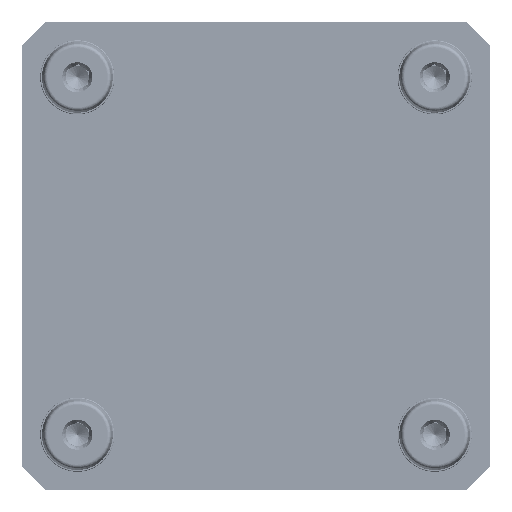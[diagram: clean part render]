
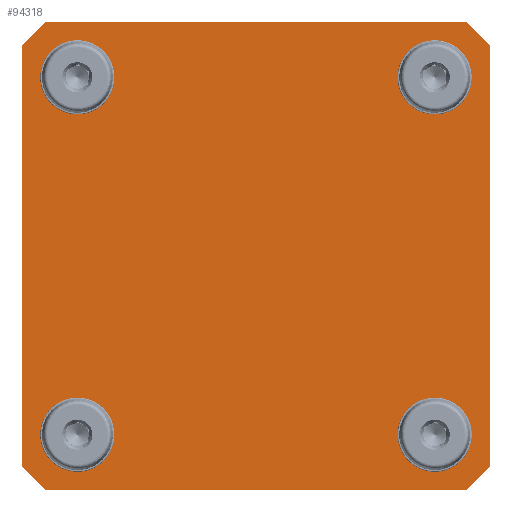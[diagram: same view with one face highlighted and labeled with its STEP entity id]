
A CAD part, front view. The second image highlights one B-rep face of the part: STEP entity #94318.
In plain terms, the highlighted planar face has unit normal (0, -1, 0).
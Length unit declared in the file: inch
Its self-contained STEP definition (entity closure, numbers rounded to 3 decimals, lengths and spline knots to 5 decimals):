
#197 = VERTEX_POINT ( 'NONE', #77002 ) ;
#792 = CARTESIAN_POINT ( 'NONE',  ( -1.88976, 0., -1.88976 ) ) ;
#1490 = VECTOR ( 'NONE', #41982, 39.37008 ) ;
#1522 = CARTESIAN_POINT ( 'NONE',  ( -2.475, 0., -2.475 ) ) ;
#1732 = VERTEX_POINT ( 'NONE', #14410 ) ;
#2294 = LINE ( 'NONE', #74886, #107219 ) ;
#4858 = PLANE ( 'NONE',  #84651 ) ;
#5739 = ORIENTED_EDGE ( 'NONE', *, *, #54458, .F. ) ;
#6816 = AXIS2_PLACEMENT_3D ( 'NONE', #67554, #114721, #59394 ) ;
#9804 = CARTESIAN_POINT ( 'NONE',  ( -2.475, 0., -2.225 ) ) ;
#10152 = CARTESIAN_POINT ( 'NONE',  ( -2.225, 0., -2.475 ) ) ;
#11030 = DIRECTION ( 'NONE',  ( 0., -1., 0. ) ) ;
#11616 = EDGE_CURVE ( 'NONE', #19131, #30035, #73313, .T. ) ;
#12098 = AXIS2_PLACEMENT_3D ( 'NONE', #47798, #20496, #103181 ) ;
#14030 = CIRCLE ( 'NONE', #36084, 0.31535 ) ;
#14053 = LINE ( 'NONE', #30131, #100034 ) ;
#14175 = DIRECTION ( 'NONE',  ( 0., -1., 0. ) ) ;
#14410 = CARTESIAN_POINT ( 'NONE',  ( -2.225, 0., 2.475 ) ) ;
#15629 = CIRCLE ( 'NONE', #12098, 0.31535 ) ;
#15800 = AXIS2_PLACEMENT_3D ( 'NONE', #51597, #14175, #69957 ) ;
#15886 = VECTOR ( 'NONE', #107015, 39.37008 ) ;
#17405 = VERTEX_POINT ( 'NONE', #43816 ) ;
#18223 = VERTEX_POINT ( 'NONE', #51150 ) ;
#19131 = VERTEX_POINT ( 'NONE', #116363 ) ;
#20496 = DIRECTION ( 'NONE',  ( 0., -1., 0. ) ) ;
#21154 = EDGE_LOOP ( 'NONE', ( #67094, #47906, #95284, #73523, #100279, #82107, #110086, #45532 ) ) ;
#21554 = DIRECTION ( 'NONE',  ( 0., 0., -1. ) ) ;
#22540 = LINE ( 'NONE', #111807, #92321 ) ;
#24840 = CARTESIAN_POINT ( 'NONE',  ( 1.88976, 0., 1.57441 ) ) ;
#25767 = DIRECTION ( 'NONE',  ( 0., -1., 0. ) ) ;
#26117 = VERTEX_POINT ( 'NONE', #108942 ) ;
#30035 = VERTEX_POINT ( 'NONE', #10152 ) ;
#30045 = ORIENTED_EDGE ( 'NONE', *, *, #33199, .F. ) ;
#30062 = DIRECTION ( 'NONE',  ( 0.707, 0., -0.707 ) ) ;
#30079 = DIRECTION ( 'NONE',  ( 0., 0., 1. ) ) ;
#30131 = CARTESIAN_POINT ( 'NONE',  ( -2.475, 0., 2.475 ) ) ;
#30136 = EDGE_CURVE ( 'NONE', #19131, #59562, #55982, .T. ) ;
#30412 = DIRECTION ( 'NONE',  ( 0., 0., -1. ) ) ;
#31399 = VERTEX_POINT ( 'NONE', #55734 ) ;
#32375 = CIRCLE ( 'NONE', #15800, 0.31535 ) ;
#33199 = EDGE_CURVE ( 'NONE', #112641, #18223, #53678, .T. ) ;
#35521 = CIRCLE ( 'NONE', #38607, 0.31535 ) ;
#35724 = AXIS2_PLACEMENT_3D ( 'NONE', #63218, #25767, #82357 ) ;
#36084 = AXIS2_PLACEMENT_3D ( 'NONE', #47622, #66345, #76516 ) ;
#36262 = EDGE_CURVE ( 'NONE', #1732, #59562, #22540, .T. ) ;
#36601 = VERTEX_POINT ( 'NONE', #42140 ) ;
#36819 = CARTESIAN_POINT ( 'NONE',  ( -1.88976, 0., -2.20511 ) ) ;
#37851 = AXIS2_PLACEMENT_3D ( 'NONE', #60612, #77749, #21554 ) ;
#38607 = AXIS2_PLACEMENT_3D ( 'NONE', #39402, #67917, #30412 ) ;
#39200 = LINE ( 'NONE', #50815, #15886 ) ;
#39402 = CARTESIAN_POINT ( 'NONE',  ( 1.88976, 0., -1.88976 ) ) ;
#41982 = DIRECTION ( 'NONE',  ( 0.707, 0., 0.707 ) ) ;
#42140 = CARTESIAN_POINT ( 'NONE',  ( 2.475, 0., -2.225 ) ) ;
#42677 = EDGE_CURVE ( 'NONE', #57090, #55868, #59232, .T. ) ;
#43816 = CARTESIAN_POINT ( 'NONE',  ( 1.88976, 0., 2.20511 ) ) ;
#45532 = ORIENTED_EDGE ( 'NONE', *, *, #36262, .T. ) ;
#45915 = FACE_BOUND ( 'NONE', #110035, .T. ) ;
#47622 = CARTESIAN_POINT ( 'NONE',  ( -1.88976, 0., 1.88976 ) ) ;
#47798 = CARTESIAN_POINT ( 'NONE',  ( -1.88976, 0., -1.88976 ) ) ;
#47906 = ORIENTED_EDGE ( 'NONE', *, *, #11616, .T. ) ;
#50464 = DIRECTION ( 'NONE',  ( 0., 0., 1. ) ) ;
#50815 = CARTESIAN_POINT ( 'NONE',  ( -2.475, 0., -2.475 ) ) ;
#51150 = CARTESIAN_POINT ( 'NONE',  ( -1.88976, 0., 1.57441 ) ) ;
#51597 = CARTESIAN_POINT ( 'NONE',  ( 1.88976, 0., 1.88976 ) ) ;
#51933 = CIRCLE ( 'NONE', #74954, 0.31535 ) ;
#53678 = CIRCLE ( 'NONE', #37851, 0.31535 ) ;
#54458 = EDGE_CURVE ( 'NONE', #31399, #94955, #51933, .T. ) ;
#54615 = CARTESIAN_POINT ( 'NONE',  ( -2.475, 0., 2.225 ) ) ;
#54876 = DIRECTION ( 'NONE',  ( -0.707, 0., -0.707 ) ) ;
#55734 = CARTESIAN_POINT ( 'NONE',  ( -1.88976, 0., -1.57441 ) ) ;
#55802 = EDGE_CURVE ( 'NONE', #61116, #17405, #32375, .T. ) ;
#55868 = VERTEX_POINT ( 'NONE', #115088 ) ;
#55982 = LINE ( 'NONE', #1522, #82161 ) ;
#57090 = VERTEX_POINT ( 'NONE', #74114 ) ;
#58060 = ORIENTED_EDGE ( 'NONE', *, *, #93576, .F. ) ;
#59232 = CIRCLE ( 'NONE', #35724, 0.31535 ) ;
#59394 = DIRECTION ( 'NONE',  ( 0., 0., 1. ) ) ;
#59562 = VERTEX_POINT ( 'NONE', #54615 ) ;
#60612 = CARTESIAN_POINT ( 'NONE',  ( -1.88976, 0., 1.88976 ) ) ;
#60792 = ORIENTED_EDGE ( 'NONE', *, *, #55802, .F. ) ;
#61116 = VERTEX_POINT ( 'NONE', #24840 ) ;
#63218 = CARTESIAN_POINT ( 'NONE',  ( 1.88976, 0., -1.88976 ) ) ;
#63378 = CIRCLE ( 'NONE', #6816, 0.31535 ) ;
#64646 = ORIENTED_EDGE ( 'NONE', *, *, #42677, .F. ) ;
#65465 = DIRECTION ( 'NONE',  ( 0., 0., 1. ) ) ;
#65469 = EDGE_CURVE ( 'NONE', #114170, #36601, #100531, .T. ) ;
#66345 = DIRECTION ( 'NONE',  ( 0., -1., 0. ) ) ;
#67094 = ORIENTED_EDGE ( 'NONE', *, *, #30136, .F. ) ;
#67554 = CARTESIAN_POINT ( 'NONE',  ( 1.88976, 0., 1.88976 ) ) ;
#67917 = DIRECTION ( 'NONE',  ( 0., -1., 0. ) ) ;
#68104 = ORIENTED_EDGE ( 'NONE', *, *, #84896, .F. ) ;
#68882 = CARTESIAN_POINT ( 'NONE',  ( 2.225, 0., -2.475 ) ) ;
#69957 = DIRECTION ( 'NONE',  ( 0., 0., 1. ) ) ;
#70521 = EDGE_CURVE ( 'NONE', #114170, #26117, #2294, .T. ) ;
#70618 = EDGE_CURVE ( 'NONE', #17405, #61116, #63378, .T. ) ;
#72442 = EDGE_LOOP ( 'NONE', ( #64646, #68104 ) ) ;
#73313 = LINE ( 'NONE', #9804, #76220 ) ;
#73523 = ORIENTED_EDGE ( 'NONE', *, *, #81941, .T. ) ;
#74114 = CARTESIAN_POINT ( 'NONE',  ( 1.88976, 0., -2.20511 ) ) ;
#74886 = CARTESIAN_POINT ( 'NONE',  ( 2.475, 0., 2.225 ) ) ;
#74954 = AXIS2_PLACEMENT_3D ( 'NONE', #792, #11030, #30079 ) ;
#76220 = VECTOR ( 'NONE', #30062, 39.37008 ) ;
#76516 = DIRECTION ( 'NONE',  ( 0., 0., -1. ) ) ;
#77002 = CARTESIAN_POINT ( 'NONE',  ( 2.225, 0., -2.475 ) ) ;
#77749 = DIRECTION ( 'NONE',  ( 0., -1., 0. ) ) ;
#78176 = CARTESIAN_POINT ( 'NONE',  ( 0., 0., 0. ) ) ;
#81941 = EDGE_CURVE ( 'NONE', #197, #36601, #119354, .T. ) ;
#82107 = ORIENTED_EDGE ( 'NONE', *, *, #70521, .T. ) ;
#82161 = VECTOR ( 'NONE', #65465, 39.37008 ) ;
#82357 = DIRECTION ( 'NONE',  ( 0., 0., -1. ) ) ;
#83719 = EDGE_CURVE ( 'NONE', #1732, #26117, #14053, .T. ) ;
#84651 = AXIS2_PLACEMENT_3D ( 'NONE', #78176, #105863, #50464 ) ;
#84678 = DIRECTION ( 'NONE',  ( -0.707, 0., 0.707 ) ) ;
#84896 = EDGE_CURVE ( 'NONE', #55868, #57090, #35521, .T. ) ;
#85664 = ORIENTED_EDGE ( 'NONE', *, *, #100310, .F. ) ;
#86233 = CARTESIAN_POINT ( 'NONE',  ( -1.88976, 0., 2.20511 ) ) ;
#88128 = FACE_OUTER_BOUND ( 'NONE', #21154, .T. ) ;
#88142 = DIRECTION ( 'NONE',  ( 0., 0., -1. ) ) ;
#91373 = CARTESIAN_POINT ( 'NONE',  ( 2.475, 0., 2.225 ) ) ;
#92321 = VECTOR ( 'NONE', #54876, 39.37008 ) ;
#92574 = FACE_BOUND ( 'NONE', #72442, .T. ) ;
#93291 = VECTOR ( 'NONE', #88142, 39.37008 ) ;
#93576 = EDGE_CURVE ( 'NONE', #94955, #31399, #15629, .T. ) ;
#93992 = FACE_BOUND ( 'NONE', #96894, .T. ) ;
#94318 = ADVANCED_FACE ( 'NONE', ( #45915, #117246, #92574, #93992, #88128 ), #4858, .F. ) ;
#94955 = VERTEX_POINT ( 'NONE', #36819 ) ;
#95284 = ORIENTED_EDGE ( 'NONE', *, *, #99061, .F. ) ;
#96894 = EDGE_LOOP ( 'NONE', ( #85664, #30045 ) ) ;
#97868 = CARTESIAN_POINT ( 'NONE',  ( 2.475, 0., -2.475 ) ) ;
#99061 = EDGE_CURVE ( 'NONE', #197, #30035, #39200, .T. ) ;
#100034 = VECTOR ( 'NONE', #105895, 39.37008 ) ;
#100279 = ORIENTED_EDGE ( 'NONE', *, *, #65469, .F. ) ;
#100310 = EDGE_CURVE ( 'NONE', #18223, #112641, #14030, .T. ) ;
#100531 = LINE ( 'NONE', #97868, #93291 ) ;
#103181 = DIRECTION ( 'NONE',  ( 0., 0., 1. ) ) ;
#104372 = ORIENTED_EDGE ( 'NONE', *, *, #70618, .F. ) ;
#105863 = DIRECTION ( 'NONE',  ( 0., 1., 0. ) ) ;
#105895 = DIRECTION ( 'NONE',  ( 1., 0., 0. ) ) ;
#107015 = DIRECTION ( 'NONE',  ( -1., 0., 0. ) ) ;
#107219 = VECTOR ( 'NONE', #84678, 39.37008 ) ;
#108942 = CARTESIAN_POINT ( 'NONE',  ( 2.225, 0., 2.475 ) ) ;
#110035 = EDGE_LOOP ( 'NONE', ( #60792, #104372 ) ) ;
#110086 = ORIENTED_EDGE ( 'NONE', *, *, #83719, .F. ) ;
#111245 = EDGE_LOOP ( 'NONE', ( #58060, #5739 ) ) ;
#111807 = CARTESIAN_POINT ( 'NONE',  ( -2.225, 0., 2.475 ) ) ;
#112641 = VERTEX_POINT ( 'NONE', #86233 ) ;
#114170 = VERTEX_POINT ( 'NONE', #91373 ) ;
#114721 = DIRECTION ( 'NONE',  ( 0., -1., 0. ) ) ;
#115088 = CARTESIAN_POINT ( 'NONE',  ( 1.88976, 0., -1.57441 ) ) ;
#116363 = CARTESIAN_POINT ( 'NONE',  ( -2.475, 0., -2.225 ) ) ;
#117246 = FACE_BOUND ( 'NONE', #111245, .T. ) ;
#119354 = LINE ( 'NONE', #68882, #1490 ) ;
